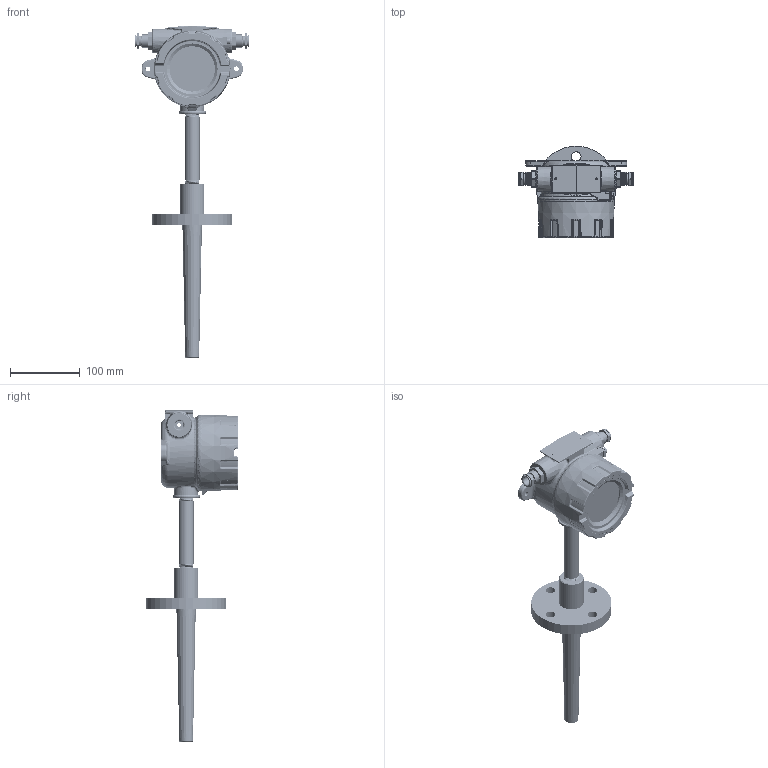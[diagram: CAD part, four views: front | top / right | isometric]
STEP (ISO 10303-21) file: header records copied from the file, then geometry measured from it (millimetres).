
FILE_DESCRIPTION(/* description */ (''),/* implementation_level */ '2;1');
FILE_NAME(/* name */ 'INP 201 sur canne pyromtrique_.step',/* time_stamp */ '2023-08-28T12:22:36+02:00',/* author */ (''),/* organization */ (''),/* preprocessor_version */ 'ST-DEVELOPER v20',/* originating_system */ 'Autodesk Translation Framework v12.9.0.99',/* authorisation */ '');
FILE_SCHEMA (('AUTOMOTIVE_DESIGN { 1 0 10303 214 3 1 1 }'));
Products named in the file (25): INP 201 sur canne pyrométrique; DGBC3FI v4; DGC3FI v1; DN 25 v1 (1); DN 25 v1; MD 120 v1; XD-ILwin4-M2-M2 v1; korpus XD-I-obrobka - aktualny; podkladka. ET4; L1652.1; podkl. M5; wkret ETN-4; podklladka PTN-1,5; podkl. M4; wkret PTN-1,5; USZCZELKA XD-I ; wkrêt blok M3; L2239-piersc W95x3.; pokrywa XD-ILwin-obrobka; CAP806694V1 v2; Presse etoupe ADE 1F2 (Basse) v1; Presse etoupe ADE 1F2 (Haut) v1; CAP806694V1 v2 (1); Presse etoupe ADE 1F2 (Basse) v1 (1); Presse etoupe ADE 1F2 (Haut) v1 (1)
Assembly tree (24 placements, depth 4):
  INP 201 sur canne pyrométrique
    DGBC3FI v4
      DGC3FI v1
      DN 25 v1 (1)
        DN 25 v1
    MD 120 v1
    XD-ILwin4-M2-M2 v1
      korpus XD-I-obrobka - aktualny
      podkladka. ET4
      L1652.1
      podkl. M5
      wkret ETN-4
      podklladka PTN-1,5
      podkl. M4
      wkret PTN-1,5
      USZCZELKA XD-I 
      wkrêt blok M3
      L2239-piersc W95x3.
      pokrywa XD-ILwin-obrobka
    CAP806694V1 v2
      Presse etoupe ADE 1F2 (Basse) v1
      Presse etoupe ADE 1F2 (Haut) v1
    CAP806694V1 v2 (1)
      Presse etoupe ADE 1F2 (Basse) v1 (1)
      Presse etoupe ADE 1F2 (Haut) v1 (1)
Bounding box: 164 x 131.8 x 476 mm (x, y, z)
Volume: 749777.7 mm3; surface area: 251677.5 mm2
Topology: 19 solids, 19 shells, 1680 faces, 4124 edges, 2532 vertices
Faces by surface type: plane 662, bspline 407, cylinder 393, torus 93, sphere 68, cone 57
Full cylindrical faces by diameter (mm): 0.75 x12, 2 x3, 2.343 x1, 2.6 x1, 3 x1, 3.242 x8, 3.5 x2, 3.9 x1, 4 x2, 4.1 x1, 4.134 x1, 4.5 x1, 4.9 x1, 5 x1, 5.1 x1, 6 x1, 7 x1, 7.28 x1, 8.28 x1, 8.4 x1, 9.5 x1, 12.5 x2, 14 x4, 14.95 x8, 15 x2, 15.5 x2, 16 x1, 16.662 x14, 18.6 x2, 18.631 x32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
Entity records: 127779 total; most frequent: CARTESIAN_POINT 90472, ORIENTED_EDGE 8096, DIRECTION 6754, EDGE_CURVE 4048, VERTEX_POINT 2529, AXIS2_PLACEMENT_3D 2459, EDGE_LOOP 1851, LINE 1836
